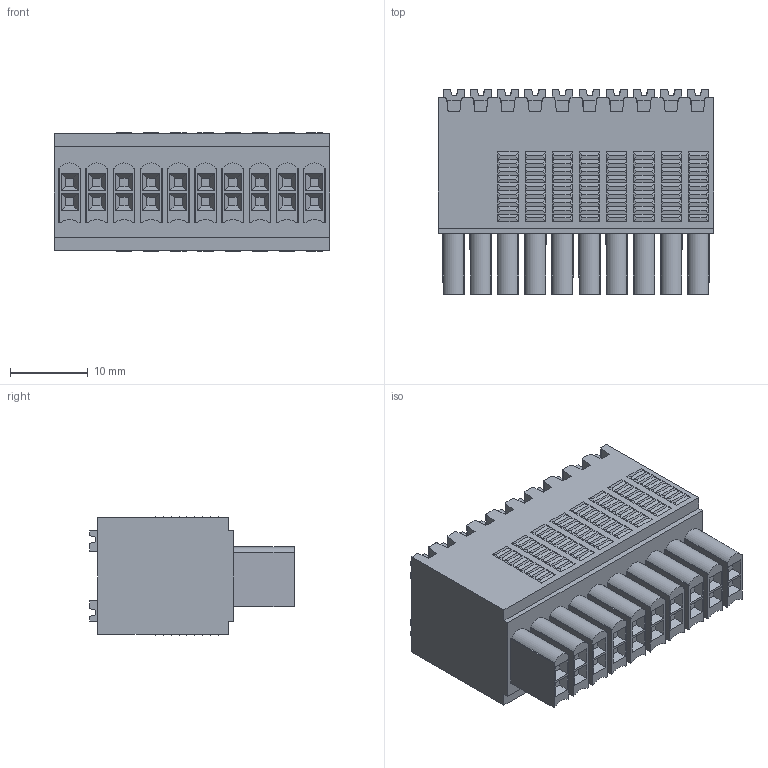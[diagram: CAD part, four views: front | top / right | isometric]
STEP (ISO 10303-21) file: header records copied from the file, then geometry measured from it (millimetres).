
FILE_DESCRIPTION((''),'2;1');
FILE_NAME('20','2020-06-03T',('Administrator'),(''),'PRO/ENGINEER BY PARAMETRIC TECHNOLOGY CORPORATION, 2012360','PRO/ENGINEER BY PARAMETRIC TECHNOLOGY CORPORATION, 2012360','');
FILE_SCHEMA(('CONFIG_CONTROL_DESIGN'));
Length unit declared in the file: millimetre
Products named in the file (1): 20
Bounding box: 35.4 x 26.3 x 15.2 mm (x, y, z)
Volume: 10249.5 mm3; surface area: 5964.7 mm2
Topology: 1 solids, 1 shells, 1776 faces, 4648 edges, 2920 vertices
Faces by surface type: plane 1636, cylinder 140
Entity records: 53226 total; most frequent: CARTESIAN_POINT 9892, ORIENTED_EDGE 9296, DIRECTION 8296, EDGE_CURVE 4648, VECTOR 4112, LINE 4112, VERTEX_POINT 2920, AXIS2_PLACEMENT_3D 2092
